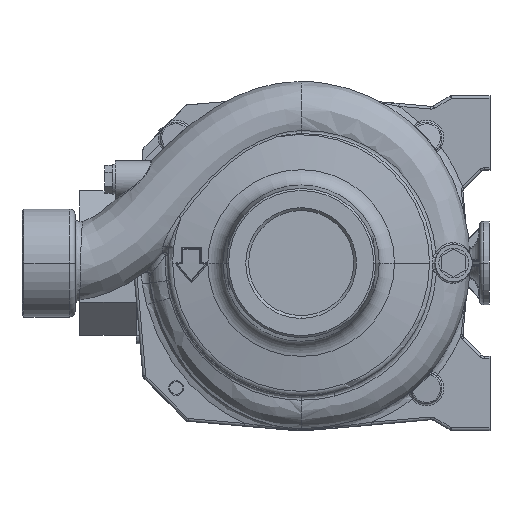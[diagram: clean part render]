
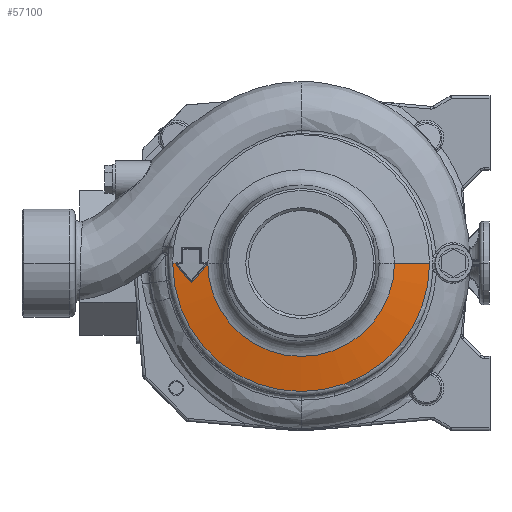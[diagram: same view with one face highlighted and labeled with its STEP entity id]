
A CAD part, left-side view. The second image highlights one B-rep face of the part: STEP entity #57100.
In plain terms, the highlighted conical face has half-angle 80 degrees and reference radius 59.599 mm.
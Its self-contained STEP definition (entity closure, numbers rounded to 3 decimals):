
#45510=CARTESIAN_POINT('',(0.,67.098,
15.222));
#45552=DIRECTION('',(0.,0.985,0.174));
#45553=VECTOR('',#45552,19.134);
#45554=CARTESIAN_POINT('',(0.,-69.021,
14.883));
#45555=LINE('',#45554,#45553);
#45571=CARTESIAN_POINT('',(-1.141,50.828,
18.088));
#45572=CARTESIAN_POINT('',(-1.111,50.803,
18.093));
#45573=CARTESIAN_POINT('',(-1.047,50.756,
18.101));
#45574=CARTESIAN_POINT('',(-0.941,50.695,
18.112));
#45575=CARTESIAN_POINT('',(-0.82,50.644,
18.122));
#45576=CARTESIAN_POINT('',(-0.68,50.607,
18.129));
#45577=CARTESIAN_POINT('',(-0.518,50.59,
18.132));
#45578=CARTESIAN_POINT('',(-0.342,50.601,
18.13));
#45579=CARTESIAN_POINT('',(-0.165,50.646,
18.123));
#45580=CARTESIAN_POINT('',(-0.054,50.697,
18.114));
#45581=CARTESIAN_POINT('',(0.,50.728,
18.108));
#45583=DIRECTION('',(0.,-0.985,0.174));
#45584=VECTOR('',#45583,0.559);
#45585=CARTESIAN_POINT('',(0.,50.728,
18.108));
#45586=LINE('',#45585,#45584);
#45587=CARTESIAN_POINT('',(0.,0.,18.205));
#45588=DIRECTION('',(0.,0.,-1.));
#45589=DIRECTION('',(0.,-1.,0.));
#45590=AXIS2_PLACEMENT_3D('',#45587,#45588,#45589);
#45592=CARTESIAN_POINT('',(0.,0.,14.883));
#45593=DIRECTION('',(0.,0.,1.));
#45594=DIRECTION('',(0.,1.,0.));
#45595=AXIS2_PLACEMENT_3D('',#45592,#45593,#45594);
#45597=DIRECTION('',(0.,-0.985,0.174));
#45598=VECTOR('',#45597,1.953);
#45599=CARTESIAN_POINT('',(0.,69.021,
14.883));
#45600=LINE('',#45599,#45598);
#45601=CARTESIAN_POINT('',(0.,67.098,
15.222));
#45602=CARTESIAN_POINT('',(-0.059,67.132,
15.216));
#45603=CARTESIAN_POINT('',(-0.182,67.187,
15.206));
#45604=CARTESIAN_POINT('',(-0.383,67.232,
15.198));
#45605=CARTESIAN_POINT('',(-0.588,67.235,
15.197));
#45606=CARTESIAN_POINT('',(-0.789,67.196,
15.204));
#45607=CARTESIAN_POINT('',(-0.978,67.117,
15.217));
#45608=CARTESIAN_POINT('',(-1.089,67.042,
15.23));
#45609=CARTESIAN_POINT('',(-1.141,66.998,
15.238));
#45611=CARTESIAN_POINT('',(-1.141,66.998,
15.238));
#45612=CARTESIAN_POINT('',(-2.149,66.152,
15.384));
#45613=CARTESIAN_POINT('',(-4.135,64.483,
15.664));
#45614=CARTESIAN_POINT('',(-7.035,62.046,
16.047));
#45615=CARTESIAN_POINT('',(-8.919,60.463,
16.278));
#45616=CARTESIAN_POINT('',(-9.851,59.68,
16.387));
#45618=CARTESIAN_POINT('',(-9.851,59.68,
16.387));
#45619=CARTESIAN_POINT('',(-9.875,59.66,
16.39));
#45620=CARTESIAN_POINT('',(-9.924,59.615,
16.397));
#45621=CARTESIAN_POINT('',(-9.998,59.531,
16.409));
#45622=CARTESIAN_POINT('',(-10.068,59.429,
16.425));
#45623=CARTESIAN_POINT('',(-10.132,59.306,
16.444));
#45624=CARTESIAN_POINT('',(-10.181,59.161,
16.468));
#45625=CARTESIAN_POINT('',(-10.209,58.993,
16.496));
#45626=CARTESIAN_POINT('',(-10.208,58.809,
16.528));
#45627=CARTESIAN_POINT('',(-10.17,58.621,
16.562));
#45628=CARTESIAN_POINT('',(-10.096,58.443,
16.595));
#45629=CARTESIAN_POINT('',(-9.989,58.281,
16.627));
#45630=CARTESIAN_POINT('',(-9.9,58.19,
16.645));
#45631=CARTESIAN_POINT('',(-9.85,58.148,
16.654));
#45633=CARTESIAN_POINT('',(-9.85,58.148,
16.654));
#45634=CARTESIAN_POINT('',(-8.803,57.268,
16.838));
#45635=CARTESIAN_POINT('',(-6.764,55.554,
17.188));
#45636=CARTESIAN_POINT('',(-3.877,53.129,
17.664));
#45637=CARTESIAN_POINT('',(-2.038,51.583,
17.952));
#45638=CARTESIAN_POINT('',(-1.141,50.828,
18.088));
#47251=CARTESIAN_POINT('',(0.,-50.178,18.205));
#47252=CARTESIAN_POINT('',(0.,50.178,18.205));
#47253=VERTEX_POINT('',#47251);
#47254=VERTEX_POINT('',#47252);
#47307=CARTESIAN_POINT('',(0.,69.021,14.883));
#47308=CARTESIAN_POINT('',(0.,-69.021,14.883));
#47309=VERTEX_POINT('',#47307);
#47310=VERTEX_POINT('',#47308);
#47327=VERTEX_POINT('',#45571);
#47328=VERTEX_POINT('',#45581);
#47353=VERTEX_POINT('',#45510);
#47355=VERTEX_POINT('',#45609);
#47357=VERTEX_POINT('',#45616);
#47359=VERTEX_POINT('',#45631);
#57078=CARTESIAN_POINT('',(0.,0.,16.544));
#57079=DIRECTION('',(0.,0.,-1.));
#57080=DIRECTION('',(0.,-1.,0.));
#57081=AXIS2_PLACEMENT_3D('',#57078,#57079,#57080);
#57082=CONICAL_SURFACE('',#57081,59.6,80.);
#57083=ORIENTED_EDGE('',*,*,#57068,.T.);
#57084=ORIENTED_EDGE('',*,*,#56862,.T.);
#57086=ORIENTED_EDGE('',*,*,#57085,.F.);
#57087=ORIENTED_EDGE('',*,*,#56858,.F.);
#57088=ORIENTED_EDGE('',*,*,#56026,.F.);
#57089=ORIENTED_EDGE('',*,*,#56853,.T.);
#57091=ORIENTED_EDGE('',*,*,#57090,.T.);
#57093=ORIENTED_EDGE('',*,*,#57092,.T.);
#57095=ORIENTED_EDGE('',*,*,#57094,.T.);
#57097=ORIENTED_EDGE('',*,*,#57096,.T.);
#57098=EDGE_LOOP('',(#57083,#57084,#57086,#57087,#57088,#57089,#57091,#57093,
#57095,#57097));
#57099=FACE_OUTER_BOUND('',#57098,.F.);
#45582=B_SPLINE_CURVE_WITH_KNOTS('',3,(#45571,#45572,#45573,#45574,#45575,
#45576,#45577,#45578,#45579,#45580,#45581),.UNSPECIFIED.,.F.,.F.,(4,1,1,1,1,1,1,
1,4),(0.,0.125,0.25,0.375,0.5,0.625,0.75,0.875,1.),
.UNSPECIFIED.);
#45591=CIRCLE('',#45590,50.178);
#45596=CIRCLE('',#45595,69.021);
#45610=B_SPLINE_CURVE_WITH_KNOTS('',3,(#45601,#45602,#45603,#45604,#45605,
#45606,#45607,#45608,#45609),.UNSPECIFIED.,.F.,.F.,(4,1,1,1,1,1,4),(0.,
0.167,0.333,0.5,0.667,0.833,
1.),.UNSPECIFIED.);
#45617=B_SPLINE_CURVE_WITH_KNOTS('',3,(#45611,#45612,#45613,#45614,#45615,
#45616),.UNSPECIFIED.,.F.,.F.,(4,1,1,4),(0.,0.333,
0.667,1.),.UNSPECIFIED.);
#45632=B_SPLINE_CURVE_WITH_KNOTS('',3,(#45618,#45619,#45620,#45621,#45622,
#45623,#45624,#45625,#45626,#45627,#45628,#45629,#45630,#45631),.UNSPECIFIED.,
.F.,.F.,(4,1,1,1,1,1,1,1,1,1,1,4),(0.,0.091,0.182,
0.273,0.364,0.455,0.545,
0.636,0.727,0.818,0.909,1.),
.UNSPECIFIED.);
#45639=B_SPLINE_CURVE_WITH_KNOTS('',3,(#45633,#45634,#45635,#45636,#45637,
#45638),.UNSPECIFIED.,.F.,.F.,(4,1,1,4),(0.,0.333,
0.667,1.),.UNSPECIFIED.);
#56026=EDGE_CURVE('',#47309,#47310,#45596,.T.);
#56853=EDGE_CURVE('',#47309,#47353,#45600,.T.);
#56858=EDGE_CURVE('',#47310,#47253,#45555,.T.);
#56862=EDGE_CURVE('',#47328,#47254,#45586,.T.);
#57068=EDGE_CURVE('',#47327,#47328,#45582,.T.);
#57085=EDGE_CURVE('',#47253,#47254,#45591,.T.);
#57090=EDGE_CURVE('',#47353,#47355,#45610,.T.);
#57092=EDGE_CURVE('',#47355,#47357,#45617,.T.);
#57094=EDGE_CURVE('',#47357,#47359,#45632,.T.);
#57096=EDGE_CURVE('',#47359,#47327,#45639,.T.);
#57100=ADVANCED_FACE('',(#57099),#57082,.T.);
